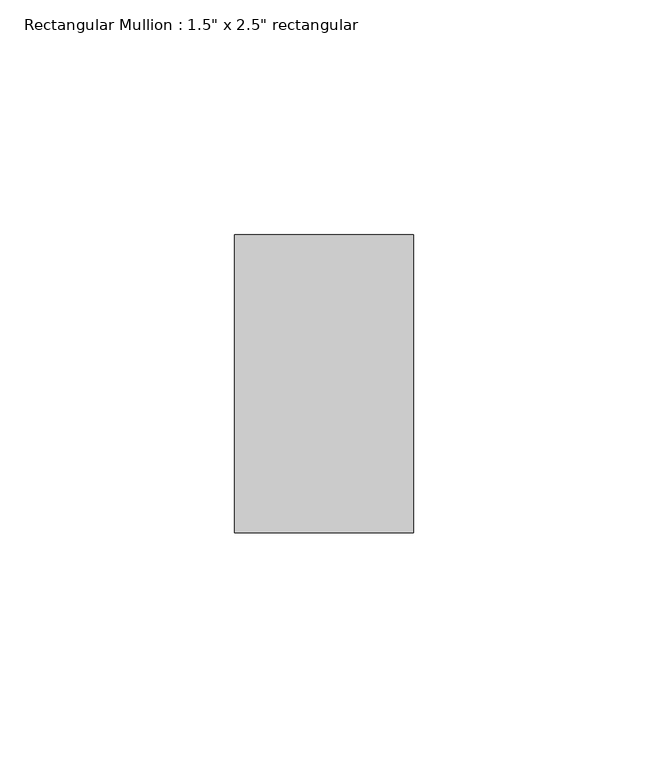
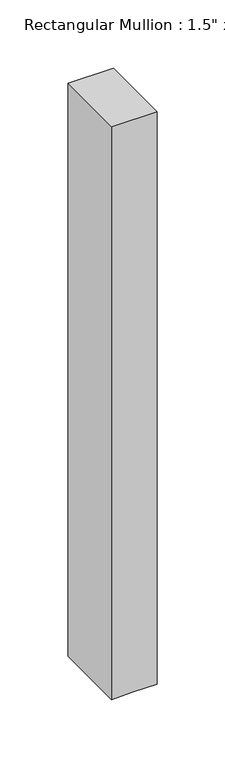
"""IFC4 building model written with IfcOpenShell, lengths in millimetres: member geometry."""

from ifc_helpers import new_model, si_unit, frame, origin, place, context, project, spatial, polyline, outline, extrude, source, transform, mapped, element, save


def member_603446c5(model_context):
    return source(origin(), model_context, "Body", "SweptSolid", [
        extrude(outline(polyline([(0.0, 19.05), (0.0, -19.05), (-511.2292837, -19.05), (-510.6755661, -0.5186376), (-510.940537, 19.05), (0.0, 19.05)])), frame((0.0, -31.75, 0.0), z_axis=(0.0, 1.0, 0.0), x_axis=(0.0, 0.0, 1.0)), (0.0, 0.0, 1.0), 63.5),
    ])


if __name__ == "__main__":
    model = new_model("IFC4")
    model_context = context("Model", 3, world=origin())
    ifc_project = project(units=[si_unit("LENGTHUNIT", "METRE", prefix="MILLI")], contexts=[model_context])
    site = spatial("IfcSite", under=ifc_project)
    building = spatial("IfcBuilding", under=site)
    placement = place(None, origin())
    member_shape = member_603446c5(model_context)
    element("IfcMember", 1, ObjectType="Rectangular Mullion : 1.5\" x 2.5\" rectangular", at=placement, inside=building, context=model_context, shape_type="MappedRepresentation", body=[
        mapped(member_shape, transform((0.0, 0.0, 0.0), x_axis=(1.0, 0.0, 0.0), y_axis=(0.0, 1.0, 0.0), z_axis=(0.0, 0.0, 1.0))),
    ])
    save(model, "model.ifc")
